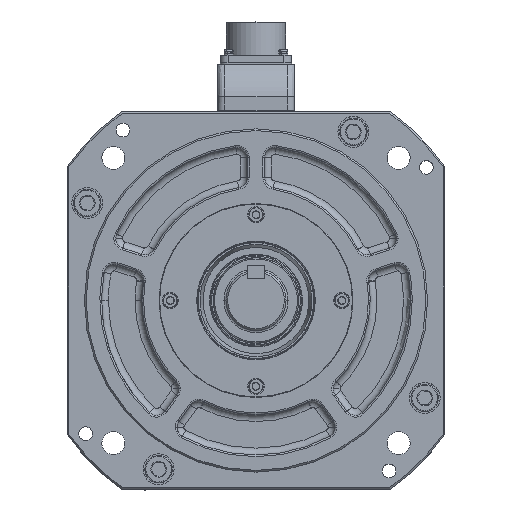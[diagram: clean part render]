
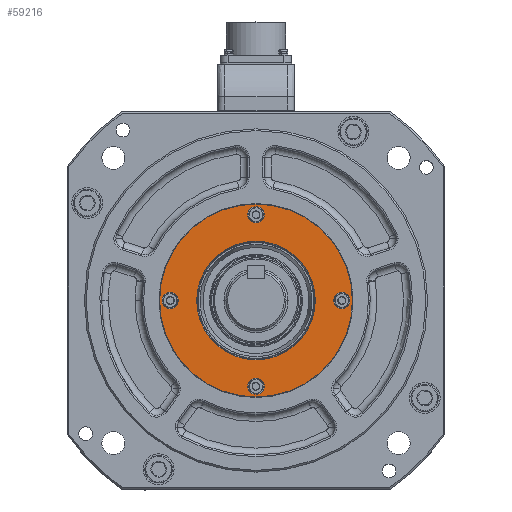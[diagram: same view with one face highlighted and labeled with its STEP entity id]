
A CAD part, top view. The second image highlights one B-rep face of the part: STEP entity #59216.
In plain terms, the highlighted planar face has unit normal (0, 0, 1).
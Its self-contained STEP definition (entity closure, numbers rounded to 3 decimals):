
#28561 = EDGE_CURVE ( 'NONE', #66606, #66569, #73368, .T. ) ;
#28588 = EDGE_CURVE ( 'NONE', #66570, #66588, #73386, .T. ) ;
#28595 = EDGE_CURVE ( 'NONE', #66547, #66497, #73402, .T. ) ;
#28639 = EDGE_CURVE ( 'NONE', #66673, #66563, #73473, .T. ) ;
#28665 = EDGE_CURVE ( 'NONE', #66497, #66547, #73538, .T. ) ;
#28666 = EDGE_CURVE ( 'NONE', #66654, #66643, #73541, .T. ) ;
#28667 = EDGE_CURVE ( 'NONE', #66810, #66583, #73497, .T. ) ;
#28714 = EDGE_CURVE ( 'NONE', #66569, #66606, #73524, .T. ) ;
#28723 = EDGE_CURVE ( 'NONE', #66588, #66570, #73499, .T. ) ;
#28742 = EDGE_CURVE ( 'NONE', #66583, #66810, #73502, .T. ) ;
#28765 = EDGE_CURVE ( 'NONE', #66563, #66673, #73670, .T. ) ;
#28777 = EDGE_CURVE ( 'NONE', #66643, #66654, #73568, .T. ) ;
#44293 = EDGE_LOOP ( 'NONE', ( #55250, #55256 ) ) ;
#44295 = EDGE_LOOP ( 'NONE', ( #55411, #55339 ) ) ;
#44305 = EDGE_LOOP ( 'NONE', ( #55393, #55247 ) ) ;
#44337 = EDGE_LOOP ( 'NONE', ( #55277, #55371 ) ) ;
#44387 = EDGE_LOOP ( 'NONE', ( #55264, #55281 ) ) ;
#44392 = EDGE_LOOP ( 'NONE', ( #55323, #55337 ) ) ;
#55247 = ORIENTED_EDGE ( 'NONE', *, *, #28665, .T. ) ;
#55250 = ORIENTED_EDGE ( 'NONE', *, *, #28742, .F. ) ;
#55256 = ORIENTED_EDGE ( 'NONE', *, *, #28667, .F. ) ;
#55264 = ORIENTED_EDGE ( 'NONE', *, *, #28765, .F. ) ;
#55277 = ORIENTED_EDGE ( 'NONE', *, *, #28561, .F. ) ;
#55281 = ORIENTED_EDGE ( 'NONE', *, *, #28639, .F. ) ;
#55323 = ORIENTED_EDGE ( 'NONE', *, *, #28723, .F. ) ;
#55337 = ORIENTED_EDGE ( 'NONE', *, *, #28588, .F. ) ;
#55339 = ORIENTED_EDGE ( 'NONE', *, *, #28666, .F. ) ;
#55371 = ORIENTED_EDGE ( 'NONE', *, *, #28714, .F. ) ;
#55393 = ORIENTED_EDGE ( 'NONE', *, *, #28595, .T. ) ;
#55411 = ORIENTED_EDGE ( 'NONE', *, *, #28777, .F. ) ;
#59216 = ADVANCED_FACE ( 'NONE', ( #94213, #94216, #94135, #94124, #94137, #94163 ), #94221, .F. ) ;
#66497 = VERTEX_POINT ( 'NONE', #101657 ) ;
#66547 = VERTEX_POINT ( 'NONE', #101692 ) ;
#66563 = VERTEX_POINT ( 'NONE', #101711 ) ;
#66569 = VERTEX_POINT ( 'NONE', #101703 ) ;
#66570 = VERTEX_POINT ( 'NONE', #101686 ) ;
#66583 = VERTEX_POINT ( 'NONE', #101724 ) ;
#66588 = VERTEX_POINT ( 'NONE', #101701 ) ;
#66606 = VERTEX_POINT ( 'NONE', #101709 ) ;
#66643 = VERTEX_POINT ( 'NONE', #101794 ) ;
#66654 = VERTEX_POINT ( 'NONE', #101745 ) ;
#66673 = VERTEX_POINT ( 'NONE', #101811 ) ;
#66810 = VERTEX_POINT ( 'NONE', #101870 ) ;
#73368 = CIRCLE ( 'NONE', #73370, 34.546 ) ;
#73370 = AXIS2_PLACEMENT_3D ( 'NONE', #77587, #77610, #77553 ) ;
#73386 = CIRCLE ( 'NONE', #73387, 4.75 ) ;
#73387 = AXIS2_PLACEMENT_3D ( 'NONE', #77627, #77671, #77656 ) ;
#73402 = CIRCLE ( 'NONE', #73414, 56.2 ) ;
#73414 = AXIS2_PLACEMENT_3D ( 'NONE', #77658, #77677, #77660 ) ;
#73465 = AXIS2_PLACEMENT_3D ( 'NONE', #77790, #77749, #77768 ) ;
#73473 = CIRCLE ( 'NONE', #73465, 4.75 ) ;
#73497 = CIRCLE ( 'NONE', #73534, 4.75 ) ;
#73499 = CIRCLE ( 'NONE', #73527, 4.75 ) ;
#73500 = AXIS2_PLACEMENT_3D ( 'NONE', #77890, #77891, #77924 ) ;
#73502 = CIRCLE ( 'NONE', #73508, 4.75 ) ;
#73508 = AXIS2_PLACEMENT_3D ( 'NONE', #77970, #77973, #77935 ) ;
#73524 = CIRCLE ( 'NONE', #73500, 34.546 ) ;
#73525 = AXIS2_PLACEMENT_3D ( 'NONE', #77825, #77805, #77835 ) ;
#73527 = AXIS2_PLACEMENT_3D ( 'NONE', #77893, #77933, #77928 ) ;
#73534 = AXIS2_PLACEMENT_3D ( 'NONE', #77816, #77811, #77821 ) ;
#73538 = CIRCLE ( 'NONE', #73543, 56.2 ) ;
#73541 = CIRCLE ( 'NONE', #73525, 4.75 ) ;
#73543 = AXIS2_PLACEMENT_3D ( 'NONE', #77826, #77803, #77813 ) ;
#73568 = CIRCLE ( 'NONE', #73599, 4.75 ) ;
#73599 = AXIS2_PLACEMENT_3D ( 'NONE', #78072, #78028, #78043 ) ;
#73622 = AXIS2_PLACEMENT_3D ( 'NONE', #78012, #77997, #77992 ) ;
#73670 = CIRCLE ( 'NONE', #73622, 4.75 ) ;
#77553 = DIRECTION ( 'NONE',  ( 1., 0., 0. ) ) ;
#77587 = CARTESIAN_POINT ( 'NONE',  ( 0., 0., 24. ) ) ;
#77610 = DIRECTION ( 'NONE',  ( 0., 0., 1. ) ) ;
#77627 = CARTESIAN_POINT ( 'NONE',  ( 50., 0., 24. ) ) ;
#77656 = DIRECTION ( 'NONE',  ( 1., 0., 0. ) ) ;
#77658 = CARTESIAN_POINT ( 'NONE',  ( 0., 0., 24. ) ) ;
#77660 = DIRECTION ( 'NONE',  ( 1., 0., 0. ) ) ;
#77671 = DIRECTION ( 'NONE',  ( 0., 0., 1. ) ) ;
#77677 = DIRECTION ( 'NONE',  ( 0., 0., 1. ) ) ;
#77749 = DIRECTION ( 'NONE',  ( 0., 0., 1. ) ) ;
#77768 = DIRECTION ( 'NONE',  ( 1., 0., 0. ) ) ;
#77790 = CARTESIAN_POINT ( 'NONE',  ( 0., -50., 24. ) ) ;
#77803 = DIRECTION ( 'NONE',  ( 0., 0., 1. ) ) ;
#77805 = DIRECTION ( 'NONE',  ( 0., 0., 1. ) ) ;
#77811 = DIRECTION ( 'NONE',  ( 0., 0., 1. ) ) ;
#77813 = DIRECTION ( 'NONE',  ( 1., 0., 0. ) ) ;
#77816 = CARTESIAN_POINT ( 'NONE',  ( -50., 0., 24. ) ) ;
#77821 = DIRECTION ( 'NONE',  ( 1., 0., 0. ) ) ;
#77825 = CARTESIAN_POINT ( 'NONE',  ( 0., 50., 24. ) ) ;
#77826 = CARTESIAN_POINT ( 'NONE',  ( 0., 0., 24. ) ) ;
#77835 = DIRECTION ( 'NONE',  ( 1., 0., 0. ) ) ;
#77890 = CARTESIAN_POINT ( 'NONE',  ( 0., 0., 24. ) ) ;
#77891 = DIRECTION ( 'NONE',  ( 0., 0., 1. ) ) ;
#77893 = CARTESIAN_POINT ( 'NONE',  ( 50., 0., 24. ) ) ;
#77924 = DIRECTION ( 'NONE',  ( 1., 0., 0. ) ) ;
#77928 = DIRECTION ( 'NONE',  ( 1., 0., 0. ) ) ;
#77933 = DIRECTION ( 'NONE',  ( 0., 0., 1. ) ) ;
#77935 = DIRECTION ( 'NONE',  ( 1., 0., 0. ) ) ;
#77970 = CARTESIAN_POINT ( 'NONE',  ( -50., 0., 24. ) ) ;
#77973 = DIRECTION ( 'NONE',  ( 0., 0., 1. ) ) ;
#77992 = DIRECTION ( 'NONE',  ( 1., 0., 0. ) ) ;
#77997 = DIRECTION ( 'NONE',  ( 0., 0., 1. ) ) ;
#78012 = CARTESIAN_POINT ( 'NONE',  ( 0., -50., 24. ) ) ;
#78028 = DIRECTION ( 'NONE',  ( 0., 0., 1. ) ) ;
#78043 = DIRECTION ( 'NONE',  ( 1., 0., 0. ) ) ;
#78072 = CARTESIAN_POINT ( 'NONE',  ( 0., 50., 24. ) ) ;
#90567 = AXIS2_PLACEMENT_3D ( 'NONE', #94181, #94189, #94196 ) ;
#94124 = FACE_BOUND ( 'NONE', #44295, .T. ) ;
#94135 = FACE_BOUND ( 'NONE', #44293, .T. ) ;
#94137 = FACE_BOUND ( 'NONE', #44337, .T. ) ;
#94163 = FACE_OUTER_BOUND ( 'NONE', #44305, .T. ) ;
#94181 = CARTESIAN_POINT ( 'NONE',  ( 0., 34.546, 24. ) ) ;
#94189 = DIRECTION ( 'NONE',  ( 0., 0., -1. ) ) ;
#94196 = DIRECTION ( 'NONE',  ( -1., 0., 0. ) ) ;
#94213 = FACE_BOUND ( 'NONE', #44387, .T. ) ;
#94216 = FACE_BOUND ( 'NONE', #44392, .T. ) ;
#94221 = PLANE ( 'NONE',  #90567 ) ;
#101657 = CARTESIAN_POINT ( 'NONE',  ( 56.2, 0., 24. ) ) ;
#101686 = CARTESIAN_POINT ( 'NONE',  ( 45.25, 0., 24. ) ) ;
#101692 = CARTESIAN_POINT ( 'NONE',  ( -56.2, 0., 24. ) ) ;
#101701 = CARTESIAN_POINT ( 'NONE',  ( 54.75, 0., 24. ) ) ;
#101703 = CARTESIAN_POINT ( 'NONE',  ( -34.546, 0., 24. ) ) ;
#101709 = CARTESIAN_POINT ( 'NONE',  ( 34.546, 0., 24. ) ) ;
#101711 = CARTESIAN_POINT ( 'NONE',  ( 4.75, -50., 24. ) ) ;
#101724 = CARTESIAN_POINT ( 'NONE',  ( -45.25, 0., 24. ) ) ;
#101745 = CARTESIAN_POINT ( 'NONE',  ( -4.75, 50., 24. ) ) ;
#101794 = CARTESIAN_POINT ( 'NONE',  ( 4.75, 50., 24. ) ) ;
#101811 = CARTESIAN_POINT ( 'NONE',  ( -4.75, -50., 24. ) ) ;
#101870 = CARTESIAN_POINT ( 'NONE',  ( -54.75, 0., 24. ) ) ;
